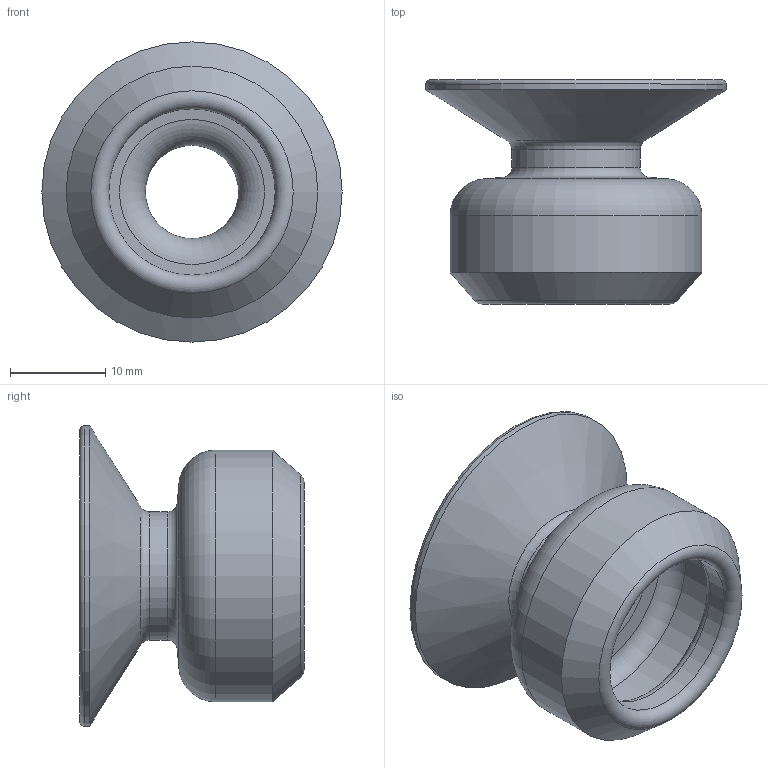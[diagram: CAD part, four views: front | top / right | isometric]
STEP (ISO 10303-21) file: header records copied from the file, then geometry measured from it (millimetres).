
FILE_DESCRIPTION (( 'STEP AP214' ), '1' );
FILE_NAME ('10F.032.003.01.STEP', '2026-04-30T18:40:19', ( '' ), ( '' ), 'SwSTEP 2.0', 'SolidWorks 2025', '' );
FILE_SCHEMA (( 'AUTOMOTIVE_DESIGN' ));
Length unit declared in the file: millimetre
Products named in the file (1): 10F.032.003.01
Bounding box: 31.6 x 23.6 x 31.6 mm (x, y, z)
Volume: 3643.9 mm3; surface area: 4629.2 mm2
Topology: 1 solids, 1 shells, 52 faces, 128 edges, 76 vertices
Faces by surface type: plane 18, torus 15, cylinder 13, cone 5, bspline 1
Full cylindrical faces by diameter (mm): 9.8 x1, 13.5 x1, 17.5 x1, 22.5 x1, 26.5 x1, 29.8 x1, 31.6 x1
Entity records: 1864 total; most frequent: CARTESIAN_POINT 752, DIRECTION 218, ORIENTED_EDGE 210, EDGE_CURVE 105, AXIS2_PLACEMENT_3D 97, VERTEX_POINT 75, EDGE_LOOP 74, FACE_OUTER_BOUND 69
